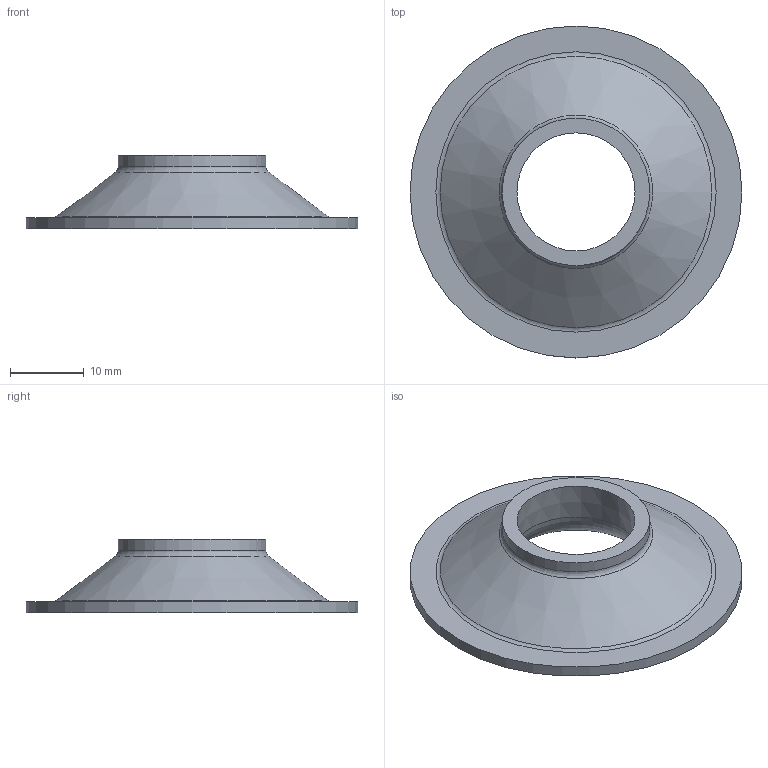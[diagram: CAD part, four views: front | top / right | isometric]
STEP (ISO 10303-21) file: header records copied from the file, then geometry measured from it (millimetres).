
FILE_DESCRIPTION( ('This file contains a STEP AP42 implementation' ,'as created by ZW3D STEP Interface translator.') ,'2;1' );
FILE_NAME( 'KM-16.stp' ,'26 5 8. 72830', (''), ('ZWCAD Software Co.'), 'Version 1.0', 'ZW3D to STEP translator', '' );
FILE_SCHEMA(('AP242_MANAGED_MODEL_BASED_3D_ENGINEERING_MIM_LF { 1 0 10303 442 1 1 4 }'));
Length unit declared in the file: millimetre
Products named in the file (1): 0
Bounding box: 45 x 45 x 10 mm (x, y, z)
Volume: 4833.5 mm3; surface area: 3702.9 mm2
Topology: 1 solids, 1 shells, 10 faces, 17 edges, 10 vertices
Faces by surface type: plane 3, torus 3, cylinder 2, cone 2
Full cylindrical faces by diameter (mm): 20 x1, 45 x1
Entity records: 276 total; most frequent: DIRECTION 52, CARTESIAN_POINT 38, ORIENTED_EDGE 34, AXIS2_PLACEMENT_3D 24, EDGE_CURVE 17, CIRCLE 13, EDGE_LOOP 13, VERTEX_POINT 10
